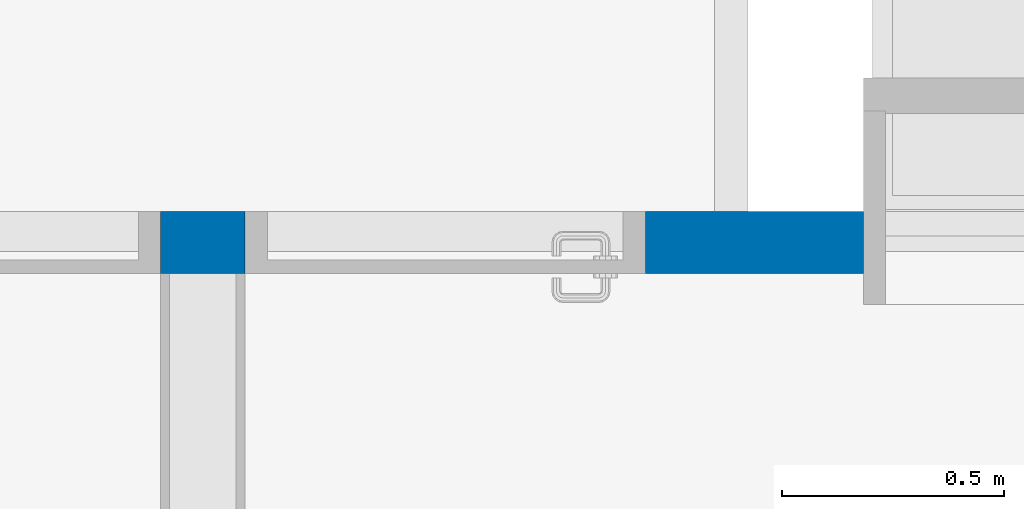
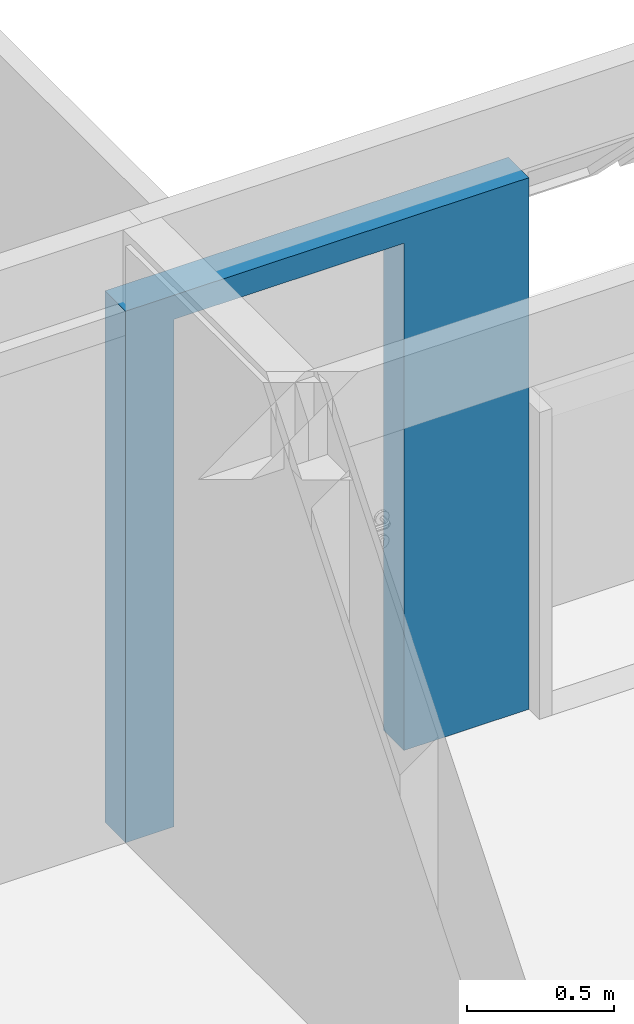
# One storey, part 29 of 40: 1 wall, 1 opening.
"""IFC4 building model written with IfcOpenShell, lengths in millimetres."""

from ifc_helpers import new_model, entity, si_unit, converted_unit, derived_unit, direction, frame, origin_with_axes, origin_2d_with_axis, place, context, subcontext, project, spatial, line, indexed_curve, rectangle, outline, extrude, material, layer, layer_set, layer_usage, type_object, element, save


model = new_model("IFC4")

# Units and contexts
model_context = context("Model", 3, precision=0.01, world=origin_with_axes(), true_north=direction((0.0, 1.0)))
body_context = subcontext(model_context, "Body", "Model", "MODEL_VIEW")
ifc_project = project(units=[si_unit("LENGTHUNIT", "METRE", prefix="MILLI"), si_unit("AREAUNIT", "SQUARE_METRE"), si_unit("VOLUMEUNIT", "CUBIC_METRE"), converted_unit("PLANEANGLEUNIT", "DEGREE", entity("IfcPlaneAngleMeasure", 0.0174532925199), si_unit("PLANEANGLEUNIT", "RADIAN"), dimensions=[0, 0, 0, 0, 0, 0, 0]), converted_unit("TIMEUNIT", "Year", entity("IfcTimeMeasure", 31556926.0), si_unit("TIMEUNIT", "SECOND"), dimensions=[0, 0, 1, 0, 0, 0, 0]), si_unit("MASSUNIT", "GRAM", prefix="KILO"), si_unit("THERMODYNAMICTEMPERATUREUNIT", "DEGREE_CELSIUS"), si_unit("LUMINOUSINTENSITYUNIT", "LUMEN"), si_unit("ENERGYUNIT", "JOULE", prefix="MEGA"), derived_unit("THERMALCONDUCTANCEUNIT", [(si_unit("POWERUNIT", "WATT"), 1), (si_unit("LENGTHUNIT", "METRE"), -1), (si_unit("THERMODYNAMICTEMPERATUREUNIT", "KELVIN"), -1)]), derived_unit("SPECIFICHEATCAPACITYUNIT", [(si_unit("ENERGYUNIT", "JOULE"), 1), (si_unit("MASSUNIT", "GRAM", prefix="KILO"), -1), (si_unit("THERMODYNAMICTEMPERATUREUNIT", "KELVIN"), -1)]), derived_unit("MASSDENSITYUNIT", [(si_unit("MASSUNIT", "GRAM", prefix="KILO"), 1), (si_unit("VOLUMEUNIT", "CUBIC_METRE"), -1)])], contexts=[model_context])

# Site, building, storey
site_placement = place(None, origin_with_axes())
site = spatial("IfcSite", under=ifc_project, at=site_placement, Name="Local", CompositionType="ELEMENT")
building_placement = place(site_placement, origin_with_axes())
building = spatial("IfcBuilding", under=site, at=building_placement, Name="Construção", CompositionType="ELEMENT")
storey_placement = place(building_placement, origin_with_axes())
storey = spatial("IfcBuildingStorey", under=building, at=storey_placement, Name="Primeiro Pavimento", CompositionType="ELEMENT", Elevation=0.0)

# Wall, opening
ifc_material = material(Name="GENÉRICO - VEDAÇÃO EXTERNA")
ifc_layer = layer(ifc_material, 140.0, ventilated="UNKNOWN", Name="GENÉRICO - VEDAÇÃO EXTERNA")
ifc_layer_set = layer_set([ifc_layer], Name="GENÉRICO - VEDAÇÃO EXTERNA 140")
ifc_layer_usage = layer_usage(ifc_layer_set, "AXIS2", "POSITIVE", 0.0)
wall_type = type_object("IfcWallType", Name="GENÉRICO - VEDAÇÃO EXTERNA 140", PredefinedType="NOTDEFINED")
wall_placement = place(storey_placement, frame((7290.0, 8125.0, 0.0), z_axis=(0.0, 0.0, 1.0), x_axis=(1.0, 0.0, 0.0)))
wall = element("IfcWall", 1, at=wall_placement, inside=storey, type_object=wall_type, material=ifc_layer_usage, Name="APTO2-PAREDE-004", PredefinedType="NOTDEFINED", context=body_context, shape_type="SweptSolid", body=[
    extrude(outline(indexed_curve([(0.0, 0.0), (1580.0, 0.0), (1580.0, 140.0), (0.0, 140.0)], segments=[line(1, 2, 3, 4, 1)])), origin_with_axes(), (0.0, 0.0, 1.0), 2200.0),
])
opening_placement = place(wall_placement, frame((640.0, 0.0, 0.0), z_axis=(0.0, 0.0, 1.0), x_axis=(1.0, 0.0, 0.0)))
element("IfcOpeningElement", 2, at=opening_placement, cuts=wall, Name="APTO2-PORTA-004", context=body_context, shape_type="SweptSolid", body=[
    extrude(rectangle(XDim=900.0, YDim=2100.0, at=origin_2d_with_axis()), frame((0.0, -140.0, 1050.0), z_axis=(0.0, 1.0, 0.0), x_axis=(-1.0, 0.0, 0.0)), (0.0, 0.0, 1.0), 420.0),
])

save(model, "model.ifc")
